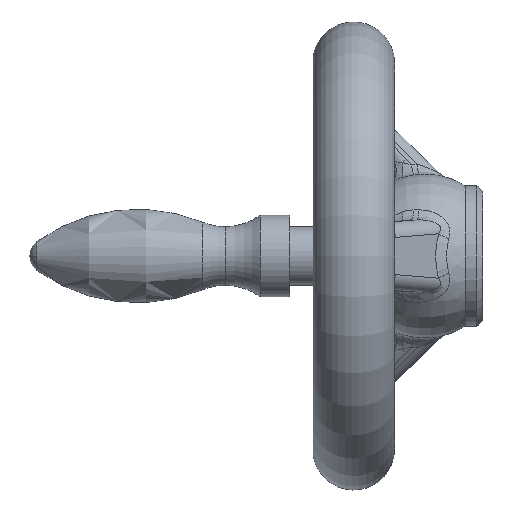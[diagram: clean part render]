
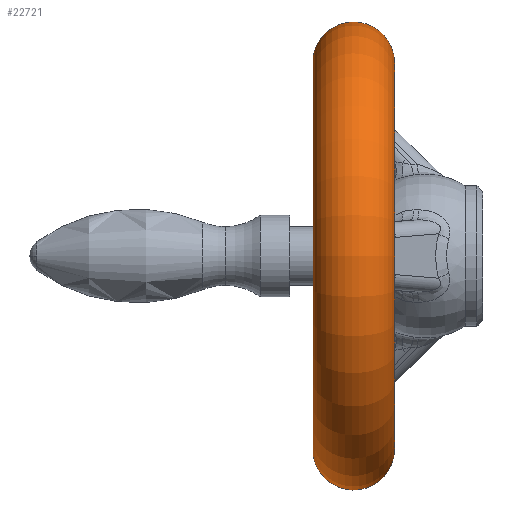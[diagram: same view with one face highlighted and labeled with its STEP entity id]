
A CAD part, left-side view. The second image highlights one B-rep face of the part: STEP entity #22721.
In plain terms, the highlighted toroidal (fillet/blend) face has major radius 33 mm and minor radius 7 mm.
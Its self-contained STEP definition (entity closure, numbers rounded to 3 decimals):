
#2262 = DIRECTION ( 'NONE',  ( 0., 0., 1. ) ) ;
#2263 = DIRECTION ( 'NONE',  ( -1., 0., 0. ) ) ;
#2264 = AXIS2_PLACEMENT_3D ( 'NONE', #2275, #2263, #2262 ) ;
#2265 = CIRCLE ( 'NONE', #2264, 7. ) ;
#2275 = CARTESIAN_POINT ( 'NONE',  ( 0., 22.072, -33. ) ) ;
#5370 = AXIS2_PLACEMENT_3D ( 'NONE', #5408, #5401, #5400 ) ;
#5400 = DIRECTION ( 'NONE',  ( 0., 0., -1. ) ) ;
#5401 = DIRECTION ( 'NONE',  ( 0., -1., 0. ) ) ;
#5408 = CARTESIAN_POINT ( 'NONE',  ( 0., 15.076, 0. ) ) ;
#5413 = CIRCLE ( 'NONE', #5370, 33.25 ) ;
#5416 = CARTESIAN_POINT ( 'NONE',  ( 0., 15.076, -33.25 ) ) ;
#5486 = CARTESIAN_POINT ( 'NONE',  ( 0., 15.076, 33.25 ) ) ;
#7681 = DIRECTION ( 'NONE',  ( 0., 0., -1. ) ) ;
#7682 = DIRECTION ( 'NONE',  ( 0., -1., 0. ) ) ;
#7683 = CARTESIAN_POINT ( 'NONE',  ( 0., 29., 0. ) ) ;
#7684 = AXIS2_PLACEMENT_3D ( 'NONE', #7683, #7682, #7681 ) ;
#7689 = CIRCLE ( 'NONE', #7684, 34. ) ;
#7750 = CARTESIAN_POINT ( 'NONE',  ( 0., 29., -34. ) ) ;
#7760 = DIRECTION ( 'NONE',  ( 0., 0., -1. ) ) ;
#7761 = DIRECTION ( 'NONE',  ( 1., 0., 0. ) ) ;
#7762 = CARTESIAN_POINT ( 'NONE',  ( 0., 22.072, 33. ) ) ;
#7763 = AXIS2_PLACEMENT_3D ( 'NONE', #7762, #7761, #7760 ) ;
#7768 = CIRCLE ( 'NONE', #7763, 7. ) ;
#7769 = CARTESIAN_POINT ( 'NONE',  ( 0., 29., 34. ) ) ;
#8660 = TOROIDAL_SURFACE ( 'NONE', #9372, 33., 7. ) ;
#9315 = CARTESIAN_POINT ( 'NONE',  ( 0., 22.072, 0. ) ) ;
#9364 = DIRECTION ( 'NONE',  ( 0., 0., -1. ) ) ;
#9366 = DIRECTION ( 'NONE',  ( 0., -1., 0. ) ) ;
#9367 = FACE_OUTER_BOUND ( 'NONE', #19103, .T. ) ;
#9372 = AXIS2_PLACEMENT_3D ( 'NONE', #9315, #9366, #9364 ) ;
#14658 = EDGE_CURVE ( 'NONE', #19624, #16885, #2265, .T. ) ;
#16885 = VERTEX_POINT ( 'NONE', #5416 ) ;
#16888 = EDGE_CURVE ( 'NONE', #16921, #16885, #5413, .T. ) ;
#16921 = VERTEX_POINT ( 'NONE', #5486 ) ;
#19103 = EDGE_LOOP ( 'NONE', ( #22315, #22719, #22728, #22716 ) ) ;
#19248 = EDGE_CURVE ( 'NONE', #19719, #19624, #7689, .T. ) ;
#19624 = VERTEX_POINT ( 'NONE', #7750 ) ;
#19719 = VERTEX_POINT ( 'NONE', #7769 ) ;
#19799 = EDGE_CURVE ( 'NONE', #19719, #16921, #7768, .T. ) ;
#22315 = ORIENTED_EDGE ( 'NONE', *, *, #19799, .F. ) ;
#22716 = ORIENTED_EDGE ( 'NONE', *, *, #16888, .F. ) ;
#22719 = ORIENTED_EDGE ( 'NONE', *, *, #19248, .T. ) ;
#22721 = ADVANCED_FACE ( 'NONE', ( #9367 ), #8660, .T. ) ;
#22728 = ORIENTED_EDGE ( 'NONE', *, *, #14658, .T. ) ;
